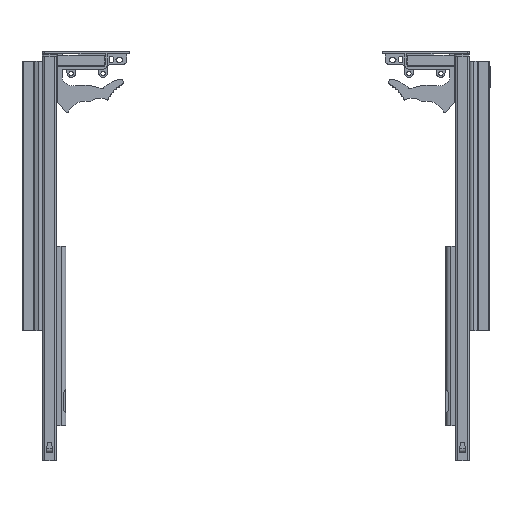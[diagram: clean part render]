
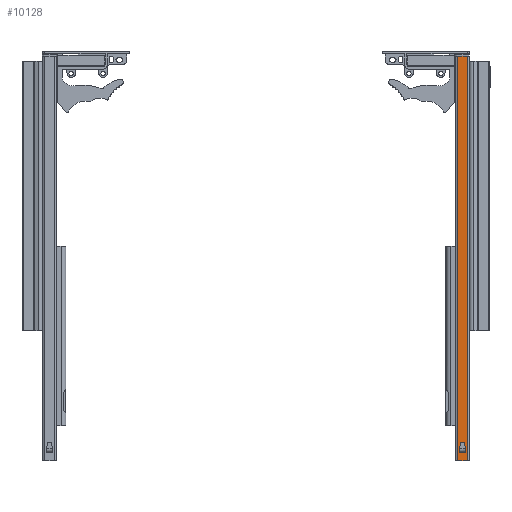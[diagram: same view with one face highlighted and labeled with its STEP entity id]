
A CAD part, front view. The second image highlights one B-rep face of the part: STEP entity #10128.
In plain terms, the highlighted planar face has unit normal (0, -1, 0).
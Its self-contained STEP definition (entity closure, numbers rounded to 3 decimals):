
#221=FACE_BOUND('',#1385,.T.);
#715=FACE_OUTER_BOUND('',#1384,.T.);
#1384=EDGE_LOOP('',(#7781,#7782,#7783,#7784));
#1385=EDGE_LOOP('',(#7785,#7786,#7787,#7788));
#2131=LINE('',#15694,#3123);
#2135=LINE('',#15701,#3127);
#2138=LINE('',#15733,#3130);
#2140=LINE('',#15739,#3132);
#2171=LINE('',#15826,#3163);
#2172=LINE('',#15829,#3164);
#2173=LINE('',#15831,#3165);
#2174=LINE('',#15832,#3166);
#3123=VECTOR('',#12689,10.);
#3127=VECTOR('',#12695,10.);
#3130=VECTOR('',#12700,10.);
#3132=VECTOR('',#12710,10.);
#3163=VECTOR('',#12793,10.);
#3164=VECTOR('',#12796,10.);
#3165=VECTOR('',#12797,10.);
#3166=VECTOR('',#12798,10.);
#4534=VERTEX_POINT('',#15691);
#4535=VERTEX_POINT('',#15693);
#4537=VERTEX_POINT('',#15699);
#4538=VERTEX_POINT('',#15731);
#4567=VERTEX_POINT('',#15822);
#4568=VERTEX_POINT('',#15824);
#4569=VERTEX_POINT('',#15828);
#4570=VERTEX_POINT('',#15830);
#5672=EDGE_CURVE('',#4535,#4534,#2131,.T.);
#5676=EDGE_CURVE('',#4534,#4537,#2135,.T.);
#5680=EDGE_CURVE('',#4537,#4538,#2138,.T.);
#5682=EDGE_CURVE('',#4538,#4535,#2140,.T.);
#5725=EDGE_CURVE('',#4567,#4568,#2171,.T.);
#5726=EDGE_CURVE('',#4567,#4569,#2172,.T.);
#5727=EDGE_CURVE('',#4570,#4568,#2173,.T.);
#5728=EDGE_CURVE('',#4569,#4570,#2174,.T.);
#7781=ORIENTED_EDGE('',*,*,#5726,.F.);
#7782=ORIENTED_EDGE('',*,*,#5725,.T.);
#7783=ORIENTED_EDGE('',*,*,#5727,.F.);
#7784=ORIENTED_EDGE('',*,*,#5728,.F.);
#7785=ORIENTED_EDGE('',*,*,#5672,.T.);
#7786=ORIENTED_EDGE('',*,*,#5676,.T.);
#7787=ORIENTED_EDGE('',*,*,#5680,.T.);
#7788=ORIENTED_EDGE('',*,*,#5682,.T.);
#9428=PLANE('',#10919);
#10128=ADVANCED_FACE('',(#715,#221),#9428,.T.);
#10919=AXIS2_PLACEMENT_3D('',#15827,#12794,#12795);
#12689=DIRECTION('',(0.,0.,-1.));
#12695=DIRECTION('',(-1.,0.,0.));
#12700=DIRECTION('',(0.,0.,1.));
#12710=DIRECTION('',(1.,0.,0.));
#12793=DIRECTION('',(0.,0.,-1.));
#12794=DIRECTION('center_axis',(0.,-1.,0.));
#12795=DIRECTION('ref_axis',(-1.,0.,0.));
#12796=DIRECTION('',(1.,0.,0.));
#12797=DIRECTION('',(-1.,0.,0.));
#12798=DIRECTION('',(0.,0.,-1.));
#15691=CARTESIAN_POINT('',(30.652,8.,-288.597));
#15693=CARTESIAN_POINT('',(30.652,8.,-287.097));
#15694=CARTESIAN_POINT('',(30.652,8.,-89.597));
#15699=CARTESIAN_POINT('',(24.034,8.,-288.597));
#15701=CARTESIAN_POINT('',(29.843,8.,-288.597));
#15731=CARTESIAN_POINT('',(24.034,8.,-287.097));
#15733=CARTESIAN_POINT('',(24.034,8.,-89.597));
#15739=CARTESIAN_POINT('',(29.843,8.,-287.097));
#15822=CARTESIAN_POINT('',(22.343,8.,107.903));
#15824=CARTESIAN_POINT('',(22.343,8.,-297.097));
#15826=CARTESIAN_POINT('',(22.343,8.,107.903));
#15827=CARTESIAN_POINT('Origin',(32.343,8.,107.903));
#15828=CARTESIAN_POINT('',(32.343,8.,107.903));
#15829=CARTESIAN_POINT('',(22.343,8.,107.903));
#15830=CARTESIAN_POINT('',(32.343,8.,-297.097));
#15831=CARTESIAN_POINT('',(22.343,8.,-297.097));
#15832=CARTESIAN_POINT('',(32.343,8.,107.903));
